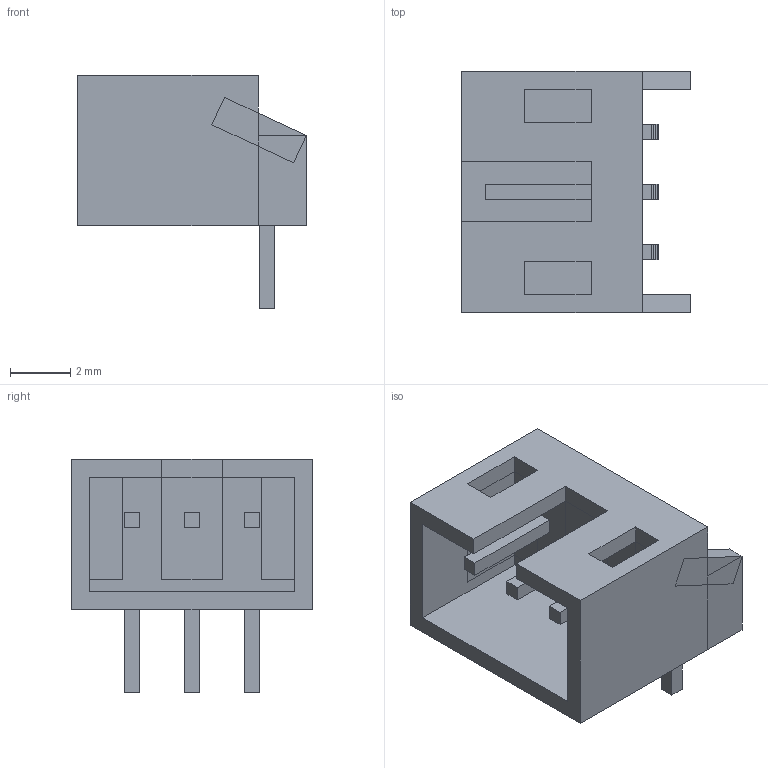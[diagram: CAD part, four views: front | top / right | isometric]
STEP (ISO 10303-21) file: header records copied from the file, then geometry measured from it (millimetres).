
FILE_DESCRIPTION(('FreeCAD Model'),'2;1');
FILE_NAME('Open CASCADE Shape Model','2021-06-28T19:00:03',('Author'),( ''),'Open CASCADE STEP processor 7.5','FreeCAD','Unknown');
FILE_SCHEMA(('AUTOMOTIVE_DESIGN { 1 0 10303 214 1 1 1 1 }'));
Length unit declared in the file: millimetre
Products named in the file (1): Group003
Bounding box: 7.6 x 8 x 7.75 mm (x, y, z)
Volume: 134.4 mm3; surface area: 395.1 mm2
Topology: 1 solids, 1 shells, 135 faces, 385 edges, 256 vertices
Faces by surface type: plane 135
Entity records: 9369 total; most frequent: CARTESIAN_POINT 1657, DIRECTION 1317, LINE 1045, VECTOR 1045, ORIENTED_EDGE 770, PCURVE 770, DEFINITIONAL_REPRESENTATION 770, EDGE_CURVE 385
